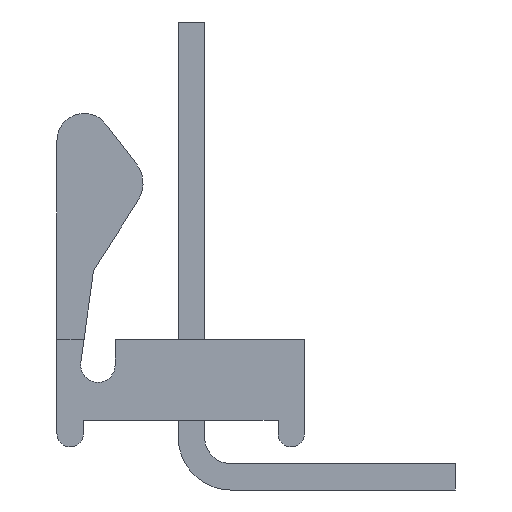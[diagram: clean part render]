
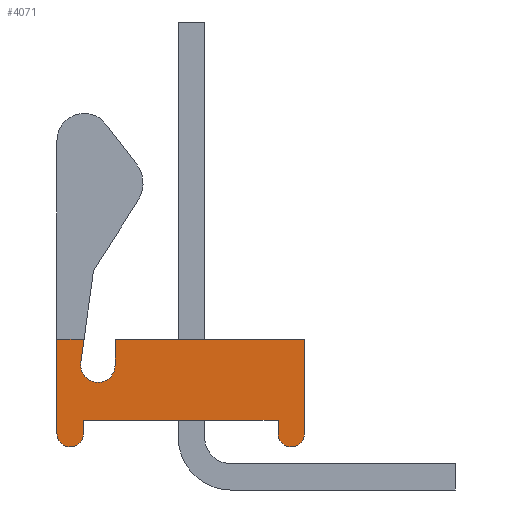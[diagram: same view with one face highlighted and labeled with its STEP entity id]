
A CAD part, left-side view. The second image highlights one B-rep face of the part: STEP entity #4071.
In plain terms, the highlighted planar face has unit normal (-1, 0, 0).
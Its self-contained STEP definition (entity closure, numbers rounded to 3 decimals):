
#2=DIRECTION('',(0.,-1.,0.));
#3=VECTOR('',#2,0.639);
#4=CARTESIAN_POINT('',(-24.13,2.921,0.));
#5=LINE('',#4,#3);
#6=DIRECTION('',(0.,0.137,-0.991));
#7=VECTOR('',#6,0.559);
#8=CARTESIAN_POINT('',(-24.13,2.282,0.));
#9=LINE('',#8,#7);
#10=CARTESIAN_POINT('',(-24.13,1.956,-0.61));
#11=DIRECTION('',(-1.,0.,0.));
#12=DIRECTION('',(0.,0.991,0.137));
#13=AXIS2_PLACEMENT_3D('',#10,#11,#12);
#15=DIRECTION('',(0.,0.,1.));
#16=VECTOR('',#15,0.61);
#17=CARTESIAN_POINT('',(-24.13,1.549,-0.61));
#18=LINE('',#17,#16);
#19=DIRECTION('',(0.,-1.,0.));
#20=VECTOR('',#19,4.47);
#21=CARTESIAN_POINT('',(-24.13,1.549,0.));
#22=LINE('',#21,#20);
#23=DIRECTION('',(0.,0.,-1.));
#24=VECTOR('',#23,2.229);
#25=CARTESIAN_POINT('',(-24.13,-2.921,0.));
#26=LINE('',#25,#24);
#27=CARTESIAN_POINT('',(-24.13,-2.61,-2.229));
#28=DIRECTION('',(1.,0.,0.));
#29=DIRECTION('',(0.,-1.,0.));
#30=AXIS2_PLACEMENT_3D('',#27,#28,#29);
#32=DIRECTION('',(0.,0.,1.));
#33=VECTOR('',#32,0.324);
#34=CARTESIAN_POINT('',(-24.13,-2.299,-2.229));
#35=LINE('',#34,#33);
#36=DIRECTION('',(0.,1.,0.));
#37=VECTOR('',#36,4.597);
#38=CARTESIAN_POINT('',(-24.13,-2.299,-1.905));
#39=LINE('',#38,#37);
#40=DIRECTION('',(0.,0.,-1.));
#41=VECTOR('',#40,0.324);
#42=CARTESIAN_POINT('',(-24.13,2.299,-1.905));
#43=LINE('',#42,#41);
#44=CARTESIAN_POINT('',(-24.13,2.61,-2.229));
#45=DIRECTION('',(1.,0.,0.));
#46=DIRECTION('',(0.,-1.,0.));
#47=AXIS2_PLACEMENT_3D('',#44,#45,#46);
#49=DIRECTION('',(0.,0.,1.));
#50=VECTOR('',#49,2.229);
#51=CARTESIAN_POINT('',(-24.13,2.921,-2.229));
#52=LINE('',#51,#50);
#3052=CARTESIAN_POINT('',(-24.13,-2.921,0.));
#3053=CARTESIAN_POINT('',(-24.13,-2.921,-2.229));
#3054=VERTEX_POINT('',#3052);
#3055=VERTEX_POINT('',#3053);
#3056=CARTESIAN_POINT('',(-24.13,1.549,0.));
#3057=VERTEX_POINT('',#3056);
#3064=CARTESIAN_POINT('',(-24.13,-2.299,-2.229));
#3065=VERTEX_POINT('',#3064);
#3066=CARTESIAN_POINT('',(-24.13,-2.299,-1.905));
#3067=VERTEX_POINT('',#3066);
#3068=CARTESIAN_POINT('',(-24.13,2.299,-1.905));
#3069=VERTEX_POINT('',#3068);
#3070=CARTESIAN_POINT('',(-24.13,2.299,-2.229));
#3071=VERTEX_POINT('',#3070);
#3072=CARTESIAN_POINT('',(-24.13,2.921,-2.229));
#3073=VERTEX_POINT('',#3072);
#3164=CARTESIAN_POINT('',(-24.13,2.358,-0.554));
#3165=CARTESIAN_POINT('',(-24.13,1.549,-0.61));
#3166=VERTEX_POINT('',#3164);
#3167=VERTEX_POINT('',#3165);
#3172=CARTESIAN_POINT('',(-24.13,2.921,0.));
#3173=CARTESIAN_POINT('',(-24.13,2.282,0.));
#3174=VERTEX_POINT('',#3172);
#3175=VERTEX_POINT('',#3173);
#4040=CARTESIAN_POINT('',(-24.13,0.,0.));
#4041=DIRECTION('',(1.,0.,0.));
#4042=DIRECTION('',(0.,1.,0.));
#4043=AXIS2_PLACEMENT_3D('',#4040,#4041,#4042);
#4044=PLANE('',#4043);
#4046=ORIENTED_EDGE('',*,*,#4045,.T.);
#4048=ORIENTED_EDGE('',*,*,#4047,.T.);
#4050=ORIENTED_EDGE('',*,*,#4049,.T.);
#4052=ORIENTED_EDGE('',*,*,#4051,.T.);
#4054=ORIENTED_EDGE('',*,*,#4053,.T.);
#4056=ORIENTED_EDGE('',*,*,#4055,.T.);
#4058=ORIENTED_EDGE('',*,*,#4057,.T.);
#4060=ORIENTED_EDGE('',*,*,#4059,.T.);
#4062=ORIENTED_EDGE('',*,*,#4061,.T.);
#4064=ORIENTED_EDGE('',*,*,#4063,.T.);
#4066=ORIENTED_EDGE('',*,*,#4065,.T.);
#4068=ORIENTED_EDGE('',*,*,#4067,.T.);
#4069=EDGE_LOOP('',(#4046,#4048,#4050,#4052,#4054,#4056,#4058,#4060,#4062,#4064,
#4066,#4068));
#4070=FACE_OUTER_BOUND('',#4069,.F.);
#14=CIRCLE('',#13,0.406);
#31=CIRCLE('',#30,0.311);
#48=CIRCLE('',#47,0.311);
#4045=EDGE_CURVE('',#3174,#3175,#5,.T.);
#4047=EDGE_CURVE('',#3175,#3166,#9,.T.);
#4049=EDGE_CURVE('',#3166,#3167,#14,.T.);
#4051=EDGE_CURVE('',#3167,#3057,#18,.T.);
#4053=EDGE_CURVE('',#3057,#3054,#22,.T.);
#4055=EDGE_CURVE('',#3054,#3055,#26,.T.);
#4057=EDGE_CURVE('',#3055,#3065,#31,.T.);
#4059=EDGE_CURVE('',#3065,#3067,#35,.T.);
#4061=EDGE_CURVE('',#3067,#3069,#39,.T.);
#4063=EDGE_CURVE('',#3069,#3071,#43,.T.);
#4065=EDGE_CURVE('',#3071,#3073,#48,.T.);
#4067=EDGE_CURVE('',#3073,#3174,#52,.T.);
#4071=ADVANCED_FACE('',(#4070),#4044,.F.);
